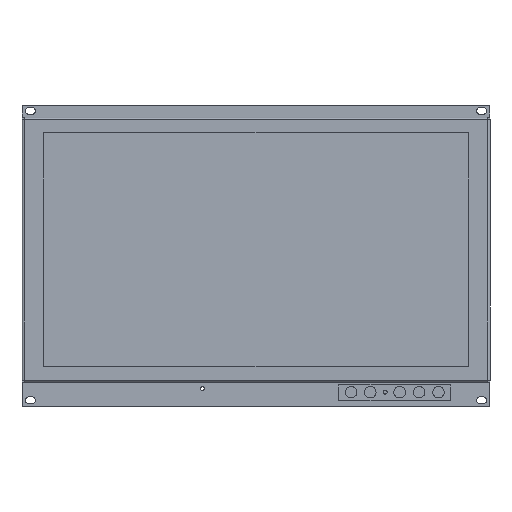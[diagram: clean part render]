
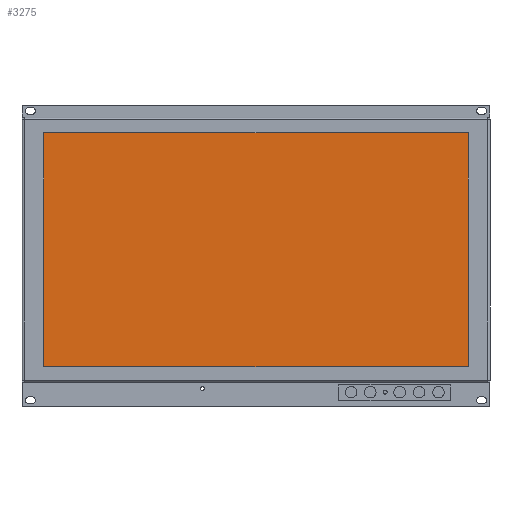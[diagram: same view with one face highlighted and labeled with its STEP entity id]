
A CAD part, top view. The second image highlights one B-rep face of the part: STEP entity #3275.
In plain terms, the highlighted planar face has unit normal (0, 0, 1).
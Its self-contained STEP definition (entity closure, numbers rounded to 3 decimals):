
#60 = CARTESIAN_POINT ( 'NONE',  ( 218.694, -120.65, -1.143 ) ) ;
#595 = EDGE_CURVE ( 'NONE', #11577, #27457, #21095, .T. ) ;
#3275 = ADVANCED_FACE ( 'NONE', ( #16559 ), #13806, .T. ) ;
#4293 = EDGE_CURVE ( 'NONE', #20398, #11577, #13629, .T. ) ;
#5968 = DIRECTION ( 'NONE',  ( 0., -1., 0. ) ) ;
#6476 = CARTESIAN_POINT ( 'NONE',  ( -218.694, -120.65, -1.143 ) ) ;
#7866 = EDGE_CURVE ( 'NONE', #27457, #44509, #42838, .T. ) ;
#8130 = CARTESIAN_POINT ( 'NONE',  ( -218.694, 120.65, -1.143 ) ) ;
#9742 = CARTESIAN_POINT ( 'NONE',  ( -218.694, 120.65, -1.143 ) ) ;
#10062 = DIRECTION ( 'NONE',  ( 1., 0., 0. ) ) ;
#10275 = VECTOR ( 'NONE', #24484, 1000. ) ;
#10362 = CARTESIAN_POINT ( 'NONE',  ( 0., 0., -1.143 ) ) ;
#11577 = VERTEX_POINT ( 'NONE', #22389 ) ;
#13629 = LINE ( 'NONE', #8130, #42291 ) ;
#13806 = PLANE ( 'NONE',  #30315 ) ;
#13967 = DIRECTION ( 'NONE',  ( 1., 0., 0. ) ) ;
#14170 = VECTOR ( 'NONE', #10062, 1000. ) ;
#16559 = FACE_OUTER_BOUND ( 'NONE', #29583, .T. ) ;
#18674 = LINE ( 'NONE', #21036, #10275 ) ;
#19541 = ORIENTED_EDGE ( 'NONE', *, *, #595, .T. ) ;
#20398 = VERTEX_POINT ( 'NONE', #37168 ) ;
#21036 = CARTESIAN_POINT ( 'NONE',  ( 218.694, 120.65, -1.143 ) ) ;
#21095 = LINE ( 'NONE', #9742, #29479 ) ;
#21317 = CARTESIAN_POINT ( 'NONE',  ( -218.694, -120.65, -1.143 ) ) ;
#22343 = ORIENTED_EDGE ( 'NONE', *, *, #36923, .T. ) ;
#22389 = CARTESIAN_POINT ( 'NONE',  ( -218.694, 120.65, -1.143 ) ) ;
#24484 = DIRECTION ( 'NONE',  ( 0., 1., 0. ) ) ;
#25950 = DIRECTION ( 'NONE',  ( -1., 0., 0. ) ) ;
#27457 = VERTEX_POINT ( 'NONE', #21317 ) ;
#28486 = ORIENTED_EDGE ( 'NONE', *, *, #4293, .T. ) ;
#29479 = VECTOR ( 'NONE', #5968, 1000. ) ;
#29583 = EDGE_LOOP ( 'NONE', ( #19541, #34813, #22343, #28486 ) ) ;
#30315 = AXIS2_PLACEMENT_3D ( 'NONE', #10362, #35476, #13967 ) ;
#34813 = ORIENTED_EDGE ( 'NONE', *, *, #7866, .T. ) ;
#35476 = DIRECTION ( 'NONE',  ( 0., 0., 1. ) ) ;
#36923 = EDGE_CURVE ( 'NONE', #44509, #20398, #18674, .T. ) ;
#37168 = CARTESIAN_POINT ( 'NONE',  ( 218.694, 120.65, -1.143 ) ) ;
#42291 = VECTOR ( 'NONE', #25950, 1000. ) ;
#42838 = LINE ( 'NONE', #6476, #14170 ) ;
#44509 = VERTEX_POINT ( 'NONE', #60 ) ;
